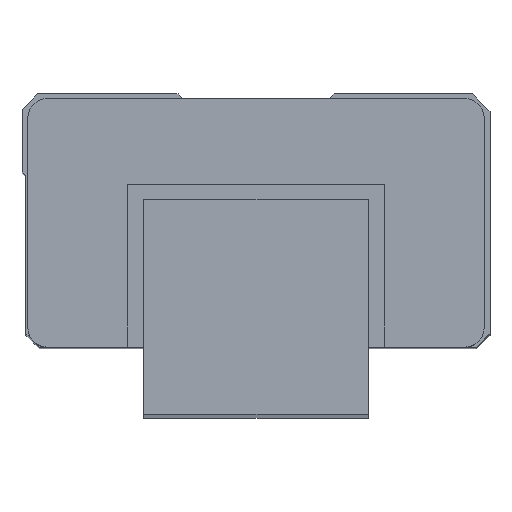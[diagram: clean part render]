
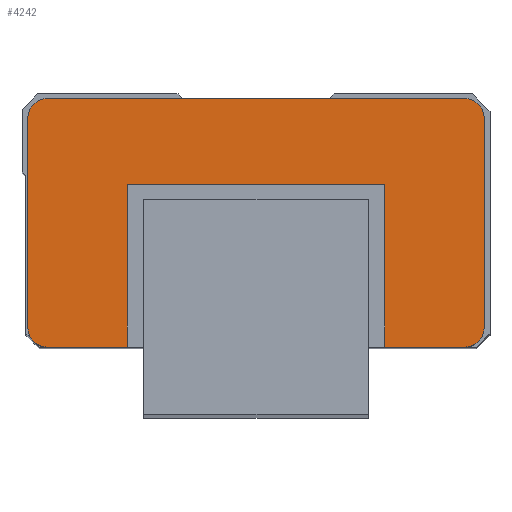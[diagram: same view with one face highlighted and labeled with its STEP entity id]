
A CAD part, top view. The second image highlights one B-rep face of the part: STEP entity #4242.
In plain terms, the highlighted planar face has unit normal (0, 0, 1).
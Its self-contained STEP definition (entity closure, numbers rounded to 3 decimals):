
#3696=CARTESIAN_POINT('',(24.7,23.7,162.3));
#3697=VERTEX_POINT('',#3696);
#3698=CARTESIAN_POINT('',(24.7,7.,162.3));
#3699=VERTEX_POINT('',#3698);
#3700=CARTESIAN_POINT('',(24.7,23.7,162.3));
#3701=DIRECTION('',(0.0,-1.0,0.0));
#3702=VECTOR('',#3701,1.0);
#3703=LINE('',#3700,#3702);
#3704=EDGE_CURVE('',#3697,#3699,#3703,.T.);
#3736=CARTESIAN_POINT('',(-1.7,23.7,162.3));
#3737=VERTEX_POINT('',#3736);
#3738=CARTESIAN_POINT('',(-1.7,23.7,162.3));
#3739=DIRECTION('',(1.0,0.0,0.0));
#3740=VECTOR('',#3739,1.0);
#3741=LINE('',#3738,#3740);
#3742=EDGE_CURVE('',#3737,#3697,#3741,.T.);
#3767=CARTESIAN_POINT('',(-1.7,7.,162.3));
#3768=VERTEX_POINT('',#3767);
#3769=CARTESIAN_POINT('',(-1.7,7.,162.3));
#3770=DIRECTION('',(0.0,1.0,0.0));
#3771=VECTOR('',#3770,1.0);
#3772=LINE('',#3769,#3771);
#3773=EDGE_CURVE('',#3768,#3737,#3772,.T.);
#3857=CARTESIAN_POINT('',(32.9,7.,162.3));
#3858=VERTEX_POINT('',#3857);
#3865=CARTESIAN_POINT('',(32.9,7.,162.3));
#3866=DIRECTION('',(-1.0,0.0,0.0));
#3867=VECTOR('',#3866,1.);
#3868=LINE('',#3865,#3867);
#3869=EDGE_CURVE('',#3858,#3699,#3868,.T.);
#3986=CARTESIAN_POINT('',(-9.9,7.,162.3));
#3987=VERTEX_POINT('',#3986);
#3988=CARTESIAN_POINT('',(-1.7,7.,162.3));
#3989=DIRECTION('',(-1.0,0.0,0.0));
#3990=VECTOR('',#3989,1.0);
#3991=LINE('',#3988,#3990);
#3992=EDGE_CURVE('',#3768,#3987,#3991,.T.);
#4017=CARTESIAN_POINT('',(-11.9,9.,162.3));
#4018=VERTEX_POINT('',#4017);
#4019=CARTESIAN_POINT('',(-11.9,30.5,162.3));
#4020=VERTEX_POINT('',#4019);
#4021=CARTESIAN_POINT('',(-11.9,9.,162.3));
#4022=DIRECTION('',(0.0,1.0,0.0));
#4023=VECTOR('',#4022,1.0);
#4024=LINE('',#4021,#4023);
#4025=EDGE_CURVE('',#4018,#4020,#4024,.T.);
#4048=CARTESIAN_POINT('',(-9.9,32.5,162.3));
#4049=VERTEX_POINT('',#4048);
#4050=CARTESIAN_POINT('',(-9.9,30.5,162.3));
#4051=DIRECTION('',(0.,0.,-1.0));
#4052=DIRECTION('',(-1.0,0.,0.));
#4053=AXIS2_PLACEMENT_3D('',#4050,#4051,#4052);
#4054=CIRCLE('',#4053,2.);
#4055=EDGE_CURVE('',#4020,#4049,#4054,.T.);
#4073=CARTESIAN_POINT('',(32.9,32.5,162.3));
#4074=VERTEX_POINT('',#4073);
#4075=CARTESIAN_POINT('',(-9.9,32.5,162.3));
#4076=DIRECTION('',(1.0,0.0,0.0));
#4077=VECTOR('',#4076,1.0);
#4078=LINE('',#4075,#4077);
#4079=EDGE_CURVE('',#4049,#4074,#4078,.T.);
#4097=CARTESIAN_POINT('',(34.9,30.5,162.3));
#4098=VERTEX_POINT('',#4097);
#4099=CARTESIAN_POINT('',(32.9,30.5,162.3));
#4100=DIRECTION('',(0.,0.,-1.0));
#4101=DIRECTION('',(0.,1.0,0.));
#4102=AXIS2_PLACEMENT_3D('',#4099,#4100,#4101);
#4103=CIRCLE('',#4102,2.);
#4104=EDGE_CURVE('',#4074,#4098,#4103,.T.);
#4122=CARTESIAN_POINT('',(34.9,9.,162.3));
#4123=VERTEX_POINT('',#4122);
#4124=CARTESIAN_POINT('',(34.9,30.5,162.3));
#4125=DIRECTION('',(0.0,-1.0,0.0));
#4126=VECTOR('',#4125,1.0);
#4127=LINE('',#4124,#4126);
#4128=EDGE_CURVE('',#4098,#4123,#4127,.T.);
#4146=CARTESIAN_POINT('',(32.9,9.,162.3));
#4147=DIRECTION('',(0.0,0.0,-1.0));
#4148=DIRECTION('',(1.0,0.0,0.0));
#4149=AXIS2_PLACEMENT_3D('',#4146,#4147,#4148);
#4150=CIRCLE('',#4149,2.);
#4151=EDGE_CURVE('',#4123,#3858,#4150,.T.);
#4210=CARTESIAN_POINT('',(-9.9,9.,162.3));
#4211=DIRECTION('',(0.,0.,-1.0));
#4212=DIRECTION('',(0.,-1.0,0.));
#4213=AXIS2_PLACEMENT_3D('',#4210,#4211,#4212);
#4214=CIRCLE('',#4213,2.);
#4215=EDGE_CURVE('',#3987,#4018,#4214,.T.);
#4223=CARTESIAN_POINT('',(-14.24,5.725,162.3));
#4224=DIRECTION('',(0.0,0.0,1.0));
#4225=DIRECTION('',(1.0,0.0,0.0));
#4226=AXIS2_PLACEMENT_3D('',#4223,#4224,#4225);
#4227=PLANE('',#4226);
#4228=ORIENTED_EDGE('',*,*,#3704,.T.);
#4229=ORIENTED_EDGE('',*,*,#3869,.F.);
#4230=ORIENTED_EDGE('',*,*,#4151,.F.);
#4231=ORIENTED_EDGE('',*,*,#4128,.F.);
#4232=ORIENTED_EDGE('',*,*,#4104,.F.);
#4233=ORIENTED_EDGE('',*,*,#4079,.F.);
#4234=ORIENTED_EDGE('',*,*,#4055,.F.);
#4235=ORIENTED_EDGE('',*,*,#4025,.F.);
#4236=ORIENTED_EDGE('',*,*,#4215,.F.);
#4237=ORIENTED_EDGE('',*,*,#3992,.F.);
#4238=ORIENTED_EDGE('',*,*,#3773,.T.);
#4239=ORIENTED_EDGE('',*,*,#3742,.T.);
#4240=EDGE_LOOP('',(#4228,#4229,#4230,#4231,#4232,#4233,#4234,#4235,#4236,#4237,#4238,#4239));
#4241=FACE_OUTER_BOUND('',#4240,.T.);
#4242=ADVANCED_FACE('',(#4241),#4227,.T.);
